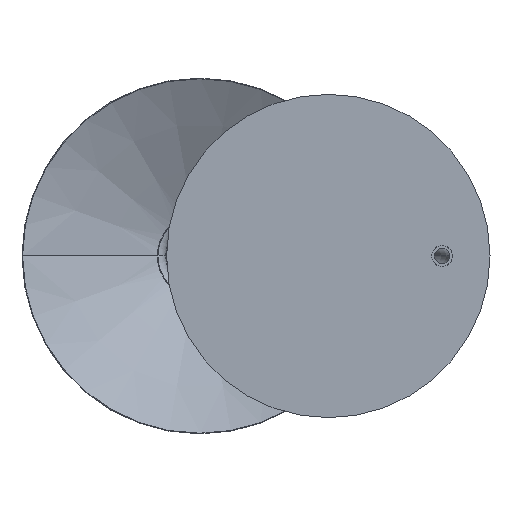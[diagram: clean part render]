
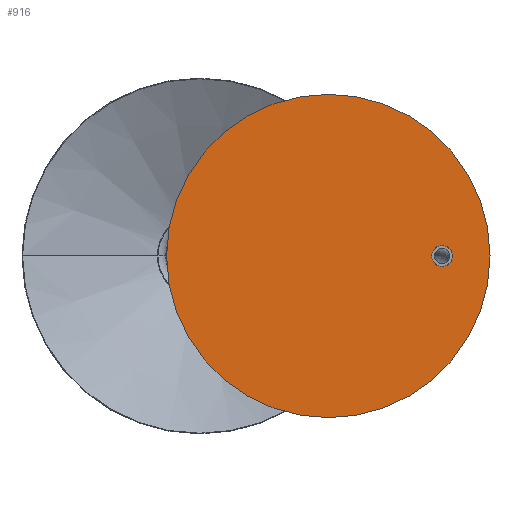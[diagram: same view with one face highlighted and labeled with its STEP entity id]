
A CAD part, front view. The second image highlights one B-rep face of the part: STEP entity #916.
In plain terms, the highlighted planar face has unit normal (0, -1, 0).
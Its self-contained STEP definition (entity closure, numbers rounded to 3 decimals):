
#25 = AXIS2_PLACEMENT_3D ( 'NONE', #506, #1226, #2265 ) ;
#88 = ORIENTED_EDGE ( 'NONE', *, *, #658, .T. ) ;
#150 = DIRECTION ( 'NONE',  ( 0., 0., 1. ) ) ;
#155 = DIRECTION ( 'NONE',  ( 0., 0., 1. ) ) ;
#323 = CARTESIAN_POINT ( 'NONE',  ( 88., 0., -8.1 ) ) ;
#327 = AXIS2_PLACEMENT_3D ( 'NONE', #552, #1270, #1177 ) ;
#506 = CARTESIAN_POINT ( 'NONE',  ( 88., 0., 0. ) ) ;
#552 = CARTESIAN_POINT ( 'NONE',  ( 88., 0., 0. ) ) ;
#604 = ORIENTED_EDGE ( 'NONE', *, *, #3960, .F. ) ;
#651 = EDGE_CURVE ( 'NONE', #4728, #2557, #3848, .T. ) ;
#658 = EDGE_CURVE ( 'NONE', #2557, #4728, #4617, .T. ) ;
#891 = DIRECTION ( 'NONE',  ( 0., 0., 1. ) ) ;
#916 = ADVANCED_FACE ( 'NONE', ( #2279, #3750 ), #4179, .F. ) ;
#998 = ORIENTED_EDGE ( 'NONE', *, *, #651, .T. ) ;
#1039 = AXIS2_PLACEMENT_3D ( 'NONE', #4545, #3781, #155 ) ;
#1057 = ORIENTED_EDGE ( 'NONE', *, *, #4619, .F. ) ;
#1177 = DIRECTION ( 'NONE',  ( 0., 0., 1. ) ) ;
#1226 = DIRECTION ( 'NONE',  ( 0., 1., 0. ) ) ;
#1258 = DIRECTION ( 'NONE',  ( 0., 1., 0. ) ) ;
#1270 = DIRECTION ( 'NONE',  ( 0., 1., 0. ) ) ;
#1724 = CIRCLE ( 'NONE', #1039, 125. ) ;
#1843 = VERTEX_POINT ( 'NONE', #4066 ) ;
#1918 = CARTESIAN_POINT ( 'NONE',  ( 0., 0., 0. ) ) ;
#2265 = DIRECTION ( 'NONE',  ( 0., 0., 1. ) ) ;
#2279 = FACE_BOUND ( 'NONE', #3824, .T. ) ;
#2432 = VERTEX_POINT ( 'NONE', #2699 ) ;
#2557 = VERTEX_POINT ( 'NONE', #323 ) ;
#2575 = AXIS2_PLACEMENT_3D ( 'NONE', #3074, #1258, #891 ) ;
#2699 = CARTESIAN_POINT ( 'NONE',  ( 0., 0., -125. ) ) ;
#3074 = CARTESIAN_POINT ( 'NONE',  ( 0., 0., 0. ) ) ;
#3723 = AXIS2_PLACEMENT_3D ( 'NONE', #1918, #3775, #150 ) ;
#3750 = FACE_OUTER_BOUND ( 'NONE', #4421, .T. ) ;
#3775 = DIRECTION ( 'NONE',  ( 0., 1., 0. ) ) ;
#3781 = DIRECTION ( 'NONE',  ( 0., 1., 0. ) ) ;
#3824 = EDGE_LOOP ( 'NONE', ( #998, #88 ) ) ;
#3848 = CIRCLE ( 'NONE', #25, 8.1 ) ;
#3960 = EDGE_CURVE ( 'NONE', #1843, #2432, #4181, .T. ) ;
#4066 = CARTESIAN_POINT ( 'NONE',  ( 0., 0., 125. ) ) ;
#4068 = CARTESIAN_POINT ( 'NONE',  ( 88., 0., 8.1 ) ) ;
#4179 = PLANE ( 'NONE',  #2575 ) ;
#4181 = CIRCLE ( 'NONE', #3723, 125. ) ;
#4421 = EDGE_LOOP ( 'NONE', ( #1057, #604 ) ) ;
#4545 = CARTESIAN_POINT ( 'NONE',  ( 0., 0., 0. ) ) ;
#4617 = CIRCLE ( 'NONE', #327, 8.1 ) ;
#4619 = EDGE_CURVE ( 'NONE', #2432, #1843, #1724, .T. ) ;
#4728 = VERTEX_POINT ( 'NONE', #4068 ) ;
